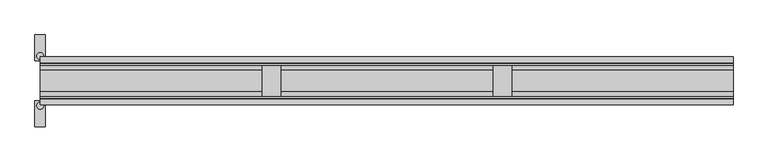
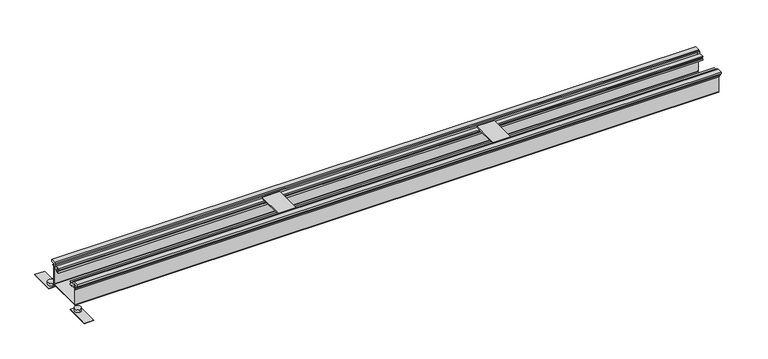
"""IFC4 building model written with IfcOpenShell, lengths in millimetres: proxy geometry, Electrical_Installation_Hager_BKW-Trunking-System-With-Trunking-Bottom-For-Dry-Cleaned-Floors : Nominal Size 150  Length 2.4 m."""

from ifc_helpers import new_model, si_unit, point, frame, frame_2d, origin, place, context, project, spatial, polyline, circle_curve, trimmed, segment, composite_curve, outline, extrude, source, transform, mapped, element, save


def electrical_fixtures_594af182(model_context):
    return source(origin(), model_context, "Body", "SweptSolid", [
        extrude(outline(composite_curve([segment(trimmed(circle_curve(frame_2d((0.0, 86.1652527)), 12.0), [point((0.0, 98.1652527))], [point((0.0, 74.1652527))], False, "CARTESIAN"), True, "CONTINUOUS"), segment(trimmed(circle_curve(frame_2d((0.0, 86.1652527)), 12.0), [point((0.0, 74.1652527))], [point((0.0, 98.1652527))], False, "CARTESIAN"), True, "CONTINUOUS")], self_intersect=False)), frame((0.0, 0.0, -85.5), z_axis=(0.0, 0.0, 1.0), x_axis=(1.0, 0.0, 0.0)), (0.0, 0.0, 1.0), 10.7),
        extrude(outline(composite_curve([segment(trimmed(circle_curve(frame_2d((0.0, -86.112037)), 12.0), [point((0.0, -74.112037))], [point((0.0, -98.112037))], False, "CARTESIAN"), True, "CONTINUOUS"), segment(trimmed(circle_curve(frame_2d((0.0, -86.112037)), 12.0), [point((0.0, -98.112037))], [point((0.0, -74.112037))], False, "CARTESIAN"), True, "CONTINUOUS")], self_intersect=False)), frame((0.0, 0.0, -85.5), z_axis=(0.0, 0.0, 1.0), x_axis=(1.0, 0.0, 0.0)), (0.0, 0.0, 1.0), 10.7),
        extrude(outline(polyline([(18.0, 69.1), (-18.0, 69.1), (-18.0, 159.1), (18.0, 159.1), (18.0, 69.1)])), frame((0.0, 0.0, -87.0), z_axis=(0.0, 0.0, 1.0), x_axis=(1.0, 0.0, 0.0)), (0.0, 0.0, 1.0), 1.5),
        extrude(outline(polyline([(18.0, -159.1), (-18.0, -159.1), (-18.0, -69.1), (18.0, -69.1), (18.0, -159.1)])), frame((0.0, 0.0, -87.0), z_axis=(0.0, 0.0, 1.0), x_axis=(1.0, 0.0, 0.0)), (0.0, 0.0, 1.0), 1.5),
        extrude(outline(polyline([(1633.5851476, 54.8), (1633.5851476, -54.8), (1568.585332, -54.8), (1568.585332, 54.8), (1633.5851476, 54.8)])), frame((0.0, 0.0, 2.5), z_axis=(0.0, 0.0, 1.0), x_axis=(1.0, 0.0, 0.0)), (0.0, 0.0, 1.0), 4.2),
        extrude(outline(polyline([(833.5851476, 54.8), (833.5851476, -54.8), (768.585332, -54.8), (768.585332, 54.8), (833.5851476, 54.8)])), frame((0.0, 0.0, 2.5), z_axis=(0.0, 0.0, 1.0), x_axis=(1.0, 0.0, 0.0)), (0.0, 0.0, 1.0), 4.2),
        extrude(outline(polyline([(83.0, 6.7), (65.0, 6.7), (65.0, -2.5), (75.475, -2.5), (75.475, -4.0), (69.6, -4.0), (69.6, -14.0), (68.1, -14.0), (68.1, -4.0), (60.1, -4.0), (60.1, -10.1), (48.3, -10.1), (48.3, -14.0), (38.1, -14.0), (38.1, -6.6607064), (41.0, -6.6607064), (41.0, -12.5), (45.7, -12.5), (45.7, 0.5), (41.0, 0.5), (41.0, -2.1), (37.9910979, -2.1), (37.9910979, 2.5), (54.8, 2.5), (54.8, 10.0), (60.0, 10.0), (60.0, -0.5), (63.0, -0.5), (63.0, 13.0), (83.0, 13.0), (83.0, 6.7)])), frame((0.0, 0.0, 0.0), z_axis=(1.0, 0.0, 0.0), x_axis=(0.0, 1.0, 0.0)), (0.0, 0.0, 1.0), 2400.0),
        extrude(outline(polyline([(-83.0, 6.7), (-83.0, 13.0), (-63.0, 13.0), (-63.0, -0.5), (-60.0, -0.5), (-60.0, 10.0), (-54.8, 10.0), (-54.8, 2.5), (-37.9910979, 2.5), (-37.9910979, -2.1), (-41.0, -2.1), (-41.0, 0.5), (-45.7, 0.5), (-45.7, -12.5), (-41.0, -12.5), (-41.0, -6.6607064), (-38.1, -6.6607064), (-38.1, -14.0), (-48.3, -14.0), (-48.3, -10.1), (-60.1, -10.1), (-60.1, -4.0), (-68.1, -4.0), (-68.1, -14.0), (-69.6, -14.0), (-69.6, -4.0), (-75.475, -4.0), (-75.475, -2.5), (-65.0, -2.5), (-65.0, 6.7), (-83.0, 6.7)])), frame((0.0, 0.0, 0.0), z_axis=(1.0, 0.0, 0.0), x_axis=(0.0, 1.0, 0.0)), (0.0, 0.0, 1.0), 2400.0),
        extrude(outline(composite_curve([segment(polyline([(66.0, -5.0), (61.0, -5.0), (61.0, -4.0), (66.0, -4.0)]), True, "CONTINUOUS"), segment(trimmed(circle_curve(frame_2d((66.0, -6.0)), 2.0), [point((66.0, -4.0))], [point((68.0, -6.0))], False, "CARTESIAN"), True, "CONTINUOUS"), segment(polyline([(68.0, -6.0), (68.0, -74.0)]), True, "CONTINUOUS"), segment(trimmed(circle_curve(frame_2d((66.0, -74.0)), 2.0), [point((68.0, -74.0))], [point((66.0, -76.0))], False, "CARTESIAN"), True, "CONTINUOUS"), segment(polyline([(66.0, -76.0), (-65.9892454, -76.0)]), True, "CONTINUOUS"), segment(trimmed(circle_curve(frame_2d((-65.9892454, -73.9892454)), 2.0107546), [point((-65.9892454, -76.0))], [point((-68.0, -73.9892454))], False, "CARTESIAN"), True, "CONTINUOUS"), segment(polyline([(-68.0, -73.9892454), (-68.0, -5.9843923)]), True, "CONTINUOUS"), segment(trimmed(circle_curve(frame_2d((-66.0156077, -5.9843923)), 1.9843923), [point((-68.0, -5.9843923))], [point((-66.0156077, -4.0))], False, "CARTESIAN"), True, "CONTINUOUS"), segment(polyline([(-66.0156077, -4.0), (-61.0, -4.0), (-61.0, -5.0), (-65.9930712, -5.0)]), True, "CONTINUOUS"), segment(trimmed(circle_curve(frame_2d((-65.9930712, -6.0069288)), 1.0069288), [point((-65.9930712, -5.0))], [point((-67.0, -6.0069288))], True, "CARTESIAN"), True, "CONTINUOUS"), segment(polyline([(-67.0, -6.0069288), (-67.0, -73.9588562)]), True, "CONTINUOUS"), segment(trimmed(circle_curve(frame_2d((-65.9588562, -73.9588562)), 1.0411438), [point((-67.0, -73.9588562))], [point((-65.9588562, -75.0))], True, "CARTESIAN"), True, "CONTINUOUS"), segment(polyline([(-65.9588562, -75.0), (66.0, -75.0)]), True, "CONTINUOUS"), segment(trimmed(circle_curve(frame_2d((66.0, -74.0)), 1.0), [point((66.0, -75.0))], [point((67.0, -74.0))], True, "CARTESIAN"), True, "CONTINUOUS"), segment(polyline([(67.0, -74.0), (67.0, -6.0)]), True, "CONTINUOUS"), segment(trimmed(circle_curve(frame_2d((66.0, -6.0)), 1.0), [point((67.0, -6.0))], [point((66.0, -5.0))], True, "CARTESIAN"), True, "CONTINUOUS")], self_intersect=False)), frame((0.0, 0.0, 0.0), z_axis=(1.0, 0.0, 0.0), x_axis=(0.0, 1.0, 0.0)), (0.0, 0.0, 1.0), 2400.0),
    ])


if __name__ == "__main__":
    model = new_model("IFC4")
    model_context = context("Model", 3, world=origin())
    ifc_project = project(units=[si_unit("LENGTHUNIT", "METRE", prefix="MILLI")], contexts=[model_context])
    site = spatial("IfcSite", under=ifc_project)
    building = spatial("IfcBuilding", under=site)
    placement = place(None, origin())
    electrical_fixtures_shape = electrical_fixtures_594af182(model_context)
    element("IfcBuildingElementProxy", 1, Name="Electrical_Installation_Hager_BKW-Trunking-System-With-Trunking-Bottom-For-Dry-Cleaned-Floors : Nominal Size 150  Length 2.4 m", ObjectType="Electrical_Installation_Hager_BKW-Trunking-System-With-Trunking-Bottom-For-Dry-Cleaned-Floors : Nominal Size 150  Length 2.4 m", at=placement, inside=building, context=model_context, shape_type="MappedRepresentation", body=[
        mapped(electrical_fixtures_shape, transform((0.0, 0.0, 0.0), x_axis=(1.0, 0.0, 0.0), y_axis=(0.0, 1.0, 0.0), z_axis=(0.0, 0.0, 1.0))),
    ])
    save(model, "model.ifc")
